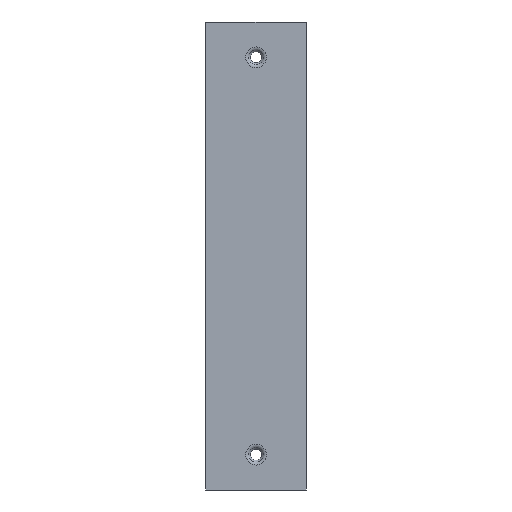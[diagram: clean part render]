
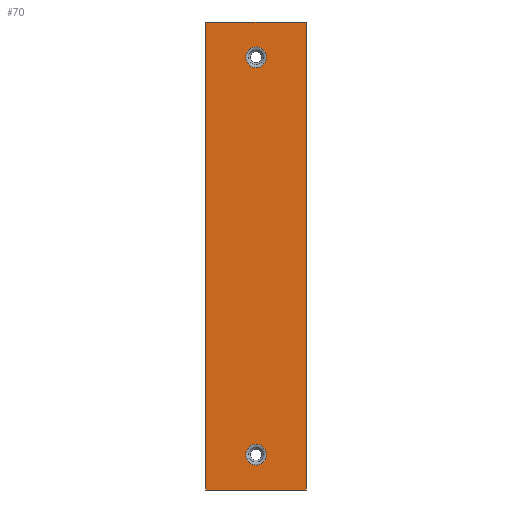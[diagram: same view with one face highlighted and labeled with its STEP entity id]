
A CAD part, left-side view. The second image highlights one B-rep face of the part: STEP entity #70.
In plain terms, the highlighted planar face has unit normal (-1, 0, 0).
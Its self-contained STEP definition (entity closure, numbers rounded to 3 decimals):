
#70 = ADVANCED_FACE( '', ( #161, #162, #163 ), #164, .F. );
#161 = FACE_BOUND( '', #278, .T. );
#162 = FACE_OUTER_BOUND( '', #279, .T. );
#163 = FACE_BOUND( '', #280, .T. );
#164 = PLANE( '', #281 );
#278 = EDGE_LOOP( '', ( #423 ) );
#279 = EDGE_LOOP( '', ( #424, #425, #426, #427 ) );
#280 = EDGE_LOOP( '', ( #428 ) );
#281 = AXIS2_PLACEMENT_3D( '', #429, #430, #431 );
#423 = ORIENTED_EDGE( '', *, *, #673, .T. );
#424 = ORIENTED_EDGE( '', *, *, #674, .T. );
#425 = ORIENTED_EDGE( '', *, *, #675, .T. );
#426 = ORIENTED_EDGE( '', *, *, #659, .F. );
#427 = ORIENTED_EDGE( '', *, *, #638, .F. );
#428 = ORIENTED_EDGE( '', *, *, #676, .T. );
#429 = CARTESIAN_POINT( '', ( 0., 98., 229. ) );
#430 = DIRECTION( '', ( 1., 0., 0. ) );
#431 = DIRECTION( '', ( 0., 0., -1. ) );
#638 = EDGE_CURVE( '', #742, #744, #745, .T. );
#659 = EDGE_CURVE( '', #744, #781, #782, .T. );
#673 = EDGE_CURVE( '', #805, #805, #806, .T. );
#674 = EDGE_CURVE( '', #742, #807, #808, .T. );
#675 = EDGE_CURVE( '', #807, #781, #809, .T. );
#676 = EDGE_CURVE( '', #810, #810, #811, .T. );
#742 = VERTEX_POINT( '', #898 );
#744 = VERTEX_POINT( '', #901 );
#745 = LINE( '', #902, #903 );
#781 = VERTEX_POINT( '', #953 );
#782 = LINE( '', #954, #955 );
#805 = VERTEX_POINT( '', #984 );
#806 = CIRCLE( '', #985, 10.178 );
#807 = VERTEX_POINT( '', #986 );
#808 = LINE( '', #987, #988 );
#809 = LINE( '', #989, #990 );
#810 = VERTEX_POINT( '', #991 );
#811 = CIRCLE( '', #992, 10.178 );
#898 = CARTESIAN_POINT( '', ( 0., 98., 229. ) );
#901 = CARTESIAN_POINT( '', ( 0., 0., 229. ) );
#902 = CARTESIAN_POINT( '', ( 0., 98., 229. ) );
#903 = VECTOR( '', #1113, 1000. );
#953 = CARTESIAN_POINT( '', ( 0., 0., -229. ) );
#954 = CARTESIAN_POINT( '', ( 0., 0., 229. ) );
#955 = VECTOR( '', #1134, 1000. );
#984 = CARTESIAN_POINT( '', ( 0., 48.979, -204.678 ) );
#985 = AXIS2_PLACEMENT_3D( '', #1153, #1154, #1155 );
#986 = CARTESIAN_POINT( '', ( 0., 98., -229. ) );
#987 = CARTESIAN_POINT( '', ( 0., 98., 229. ) );
#988 = VECTOR( '', #1156, 1000. );
#989 = CARTESIAN_POINT( '', ( 0., 98., -229. ) );
#990 = VECTOR( '', #1157, 1000. );
#991 = CARTESIAN_POINT( '', ( 0., 48.979, 184.322 ) );
#992 = AXIS2_PLACEMENT_3D( '', #1158, #1159, #1160 );
#1113 = DIRECTION( '', ( 0., -1., 0. ) );
#1134 = DIRECTION( '', ( 0., 0., -1. ) );
#1153 = CARTESIAN_POINT( '', ( 0., 48.979, -194.5 ) );
#1154 = DIRECTION( '', ( 1., 0., 0. ) );
#1155 = DIRECTION( '', ( 0., 0., -1. ) );
#1156 = DIRECTION( '', ( 0., 0., -1. ) );
#1157 = DIRECTION( '', ( 0., -1., 0. ) );
#1158 = CARTESIAN_POINT( '', ( 0., 48.979, 194.5 ) );
#1159 = DIRECTION( '', ( 1., 0., 0. ) );
#1160 = DIRECTION( '', ( 0., 0., -1. ) );
